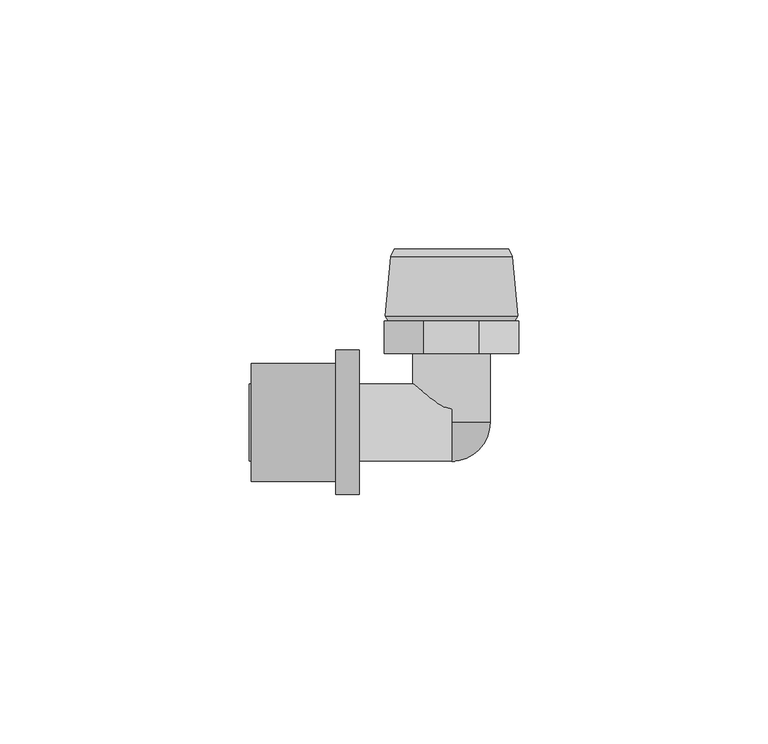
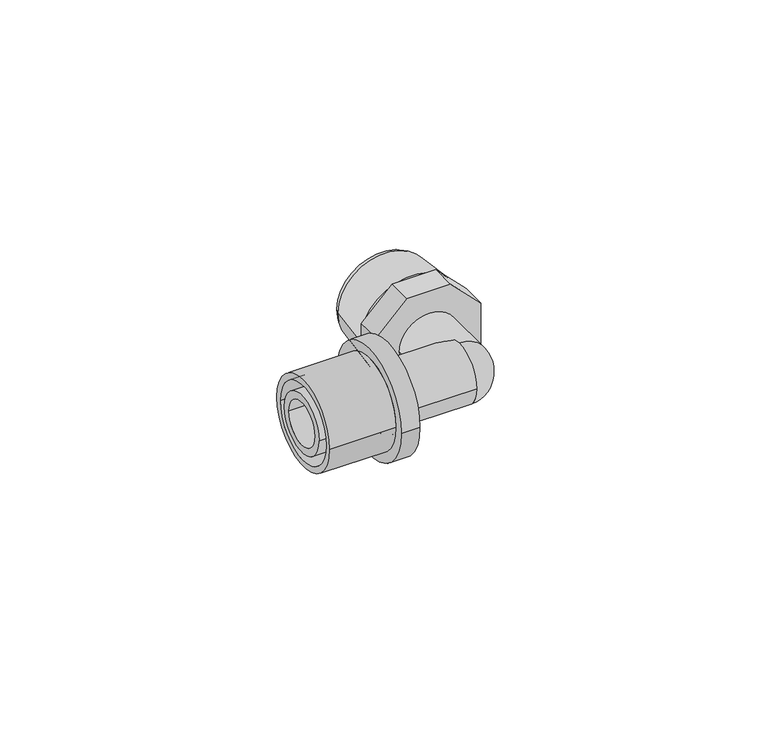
"""IFC4 building model written with IfcOpenShell, lengths in millimetres: pipe fitting geometry, FASTLOC_Elbow with male thread EX+ : FSL A internal AT."""

from ifc_helpers import new_model, si_unit, point, frame, origin, origin_2d, place, context, project, spatial, polyline, circle_curve, ellipse_curve, trimmed, segment, composite_curve, outline, extrude, source, transform, mapped, element, save
from ifc_brep_helpers import plane_surface, cylinder_surface, revolved_surface, advanced_brep


def pipe_fitting_21c97d0d(model_context):
    return source(origin(), model_context, "Body", "SolidModel", [
        advanced_brep(
        [(-23.2, -14.5, 0.0), (-23.2, 14.5, 0.0), (-18.5, 14.5, 0.0), (-18.5, -14.5, 0.0), (-40.2, -11.85, 0.0), (-40.2, 11.85, 0.0), (-23.2, 11.85, 0.0), (-23.2, -11.85, 0.0), (-18.5, -10.15, 0.0), (-18.5, 10.15, 0.0), (-40.2, 10.15, 0.0), (-40.2, -10.15, 0.0)],
        [
            (0, 1, circle_curve(frame((-23.2, 0.0, 0.0), z_axis=(1.0, 0.0, 0.0), x_axis=(0.0, 1.0, 0.0)), 14.5)),
            (1, 2),
            (2, 3, circle_curve(frame((-18.5, 0.0, 0.0), z_axis=(-1.0, 0.0, 0.0), x_axis=(0.0, 1.0, 0.0)), 14.5)),
            (3, 0),
            (4, 5, circle_curve(frame((-40.2, 0.0, 0.0), z_axis=(1.0, 0.0, 0.0), x_axis=(0.0, 1.0, 0.0)), 11.85)),
            (5, 6),
            (6, 7, circle_curve(frame((-23.2, 0.0, 0.0), z_axis=(-1.0, 0.0, 0.0), x_axis=(0.0, 1.0, 0.0)), 11.85)),
            (7, 4),
            (8, 9, circle_curve(frame((-18.5, 0.0, 0.0), z_axis=(1.0, 0.0, 0.0), x_axis=(0.0, 1.0, 0.0)), 10.15)),
            (9, 10),
            (10, 11, circle_curve(frame((-40.2, 0.0, 0.0), z_axis=(-1.0, 0.0, 0.0), x_axis=(0.0, 1.0, 0.0)), 10.15)),
            (11, 8),
            (1, 0, circle_curve(frame((-23.2, 0.0, 0.0), z_axis=(1.0, 0.0, 0.0), x_axis=(0.0, -1.0, 0.0)), 14.5)),
            (3, 2, circle_curve(frame((-18.5, 0.0, 0.0), z_axis=(-1.0, 0.0, 0.0), x_axis=(0.0, -1.0, 0.0)), 14.5)),
            (6, 7, circle_curve(frame((-23.2, 0.0, 0.0), z_axis=(1.0, 0.0, 0.0), x_axis=(0.0, -1.0, 0.0)), 11.85)),
            (5, 4, circle_curve(frame((-40.2, 0.0, 0.0), z_axis=(1.0, 0.0, 0.0), x_axis=(0.0, -1.0, 0.0)), 11.85)),
            (10, 11, circle_curve(frame((-40.2, 0.0, 0.0), z_axis=(1.0, 0.0, 0.0), x_axis=(0.0, -1.0, 0.0)), 10.15)),
            (9, 8, circle_curve(frame((-18.5, 0.0, 0.0), z_axis=(1.0, 0.0, 0.0), x_axis=(0.0, -1.0, 0.0)), 10.15)),
        ],
        [
            cylinder_surface(frame((-18.5, 0.0, 0.0), z_axis=(-1.0, 0.0, 0.0), x_axis=(0.0, 1.0, 0.0)), 14.5),
            cylinder_surface(frame((-18.5, 0.0, 0.0), z_axis=(-1.0, 0.0, 0.0), x_axis=(0.0, 1.0, 0.0)), 11.85),
            revolved_surface(polyline([(-40.2, 10.15, 0.0), (-18.5, 10.15, 0.0)]), (-18.5, 0.0, 0.0), (-1.0, 0.0, 0.0)),
            cylinder_surface(frame((-18.5, 0.0, 0.0), z_axis=(-1.0, 0.0, 0.0), x_axis=(0.0, -1.0, 0.0)), 14.5),
            plane_surface(frame((-23.2, 0.0, 0.0), z_axis=(-1.0, 0.0, 0.0), x_axis=(0.0, -1.0, 0.0))),
            cylinder_surface(frame((-18.5, 0.0, 0.0), z_axis=(-1.0, 0.0, 0.0), x_axis=(0.0, -1.0, 0.0)), 11.85),
            plane_surface(frame((-40.2, 0.0, 0.0), z_axis=(-1.0, 0.0, 0.0), x_axis=(0.0, -1.0, 0.0))),
            revolved_surface(polyline([(-40.2, -10.15, 0.0), (-18.5, -10.15, 0.0)]), (-18.5, 0.0, 0.0), (-1.0, 0.0, 0.0)),
            plane_surface(frame((-18.5, 0.0, 0.0), z_axis=(1.0, 0.0, 0.0), x_axis=(0.0, -1.0, 0.0))),
        ],
        [
            (0, [[1, 2, 3, 4]]),
            (1, [[5, 6, 7, 8]]),
            (2, [[9, 10, 11, 12]]),
            (3, [[13, -4, 14, -2]]),
            (4, [[-13, -1], [15, -7]]),
            (5, [[16, -8, -15, -6]]),
            (6, [[-16, -5], [17, -11]]),
            (7, [[18, -12, -17, -10]]),
            (8, [[-14, -3], [-18, -9]]),
        ],
    ),
        advanced_brep(
        [(12.15, 33.3000007, 0.0), (-12.15, 33.3000007, 0.0), (-11.45, 34.8, 0.0), (11.45, 34.8, 0.0), (13.3, 21.3531902, 0.0), (-13.3, 21.3531902, 0.0), (12.7, 20.3, 0.0), (-12.7, 20.3, 0.0), (9.5, 21.7157803, 0.0), (-9.5, 21.7157803, 0.0), (-8.3967197, 20.3, 0.0), (8.3967197, 20.3, 0.0), (9.5, 34.8, 0.0), (-9.5, 34.8, 0.0)],
        [
            (0, 1, circle_curve(frame((0.0, 33.3000007, 0.0), z_axis=(0.0, 1.0, 0.0), x_axis=(-1.0, 0.0, 0.0)), 12.15)),
            (1, 2),
            (2, 3, circle_curve(frame((0.0, 34.8, 0.0), z_axis=(0.0, -1.0, 0.0), x_axis=(-1.0, 0.0, 0.0)), 11.45)),
            (3, 0),
            (4, 5, circle_curve(frame((0.0, 21.3531902, 0.0), z_axis=(0.0, 1.0, 0.0), x_axis=(-1.0, 0.0, 0.0)), 13.3)),
            (5, 1),
            (0, 4),
            (6, 7, circle_curve(frame((0.0, 20.3, 0.0), z_axis=(0.0, 1.0, 0.0), x_axis=(-1.0, 0.0, 0.0)), 12.7)),
            (7, 5),
            (4, 6),
            (8, 9, circle_curve(frame((0.0, 21.7157803, 0.0), z_axis=(0.0, 1.0, 0.0), x_axis=(-1.0, 0.0, 0.0)), 9.5)),
            (9, 10),
            (10, 11, circle_curve(frame((0.0, 20.3, 0.0), z_axis=(0.0, -1.0, 0.0), x_axis=(-1.0, 0.0, 0.0)), 8.3967197)),
            (11, 8),
            (12, 13, circle_curve(frame((0.0, 34.8, 0.0), z_axis=(0.0, 1.0, 0.0), x_axis=(-1.0, 0.0, 0.0)), 9.5)),
            (13, 9),
            (8, 12),
            (2, 3, circle_curve(frame((0.0, 34.8, 0.0), z_axis=(0.0, 1.0, 0.0), x_axis=(1.0, 0.0, 0.0)), 11.45)),
            (12, 13, circle_curve(frame((0.0, 34.8, 0.0), z_axis=(0.0, -1.0, 0.0), x_axis=(1.0, 0.0, 0.0)), 9.5)),
            (1, 0, circle_curve(frame((0.0, 33.3000007, 0.0), z_axis=(0.0, 1.0, 0.0), x_axis=(1.0, 0.0, 0.0)), 12.15)),
            (5, 4, circle_curve(frame((0.0, 21.3531902, 0.0), z_axis=(0.0, 1.0, 0.0), x_axis=(1.0, 0.0, 0.0)), 13.3)),
            (7, 6, circle_curve(frame((0.0, 20.3, 0.0), z_axis=(0.0, 1.0, 0.0), x_axis=(1.0, 0.0, 0.0)), 12.7)),
            (10, 11, circle_curve(frame((0.0, 20.3, 0.0), z_axis=(0.0, 1.0, 0.0), x_axis=(1.0, 0.0, 0.0)), 8.3967197)),
            (9, 8, circle_curve(frame((0.0, 21.7157803, 0.0), z_axis=(0.0, 1.0, 0.0), x_axis=(1.0, 0.0, 0.0)), 9.5)),
        ],
        [
            revolved_surface(polyline([(-11.45, 34.8, 0.0), (-12.15, 33.3000007, 0.0)]), (0.0, 13.8, 0.0), (0.0, -1.0, 0.0)),
            revolved_surface(polyline([(-12.15, 33.3000007, 0.0), (-13.3, 21.3531902, 0.0)]), (0.0, 13.8, 0.0), (0.0, -1.0, 0.0)),
            revolved_surface(polyline([(-13.3, 21.3531902, 0.0), (-12.7, 20.3, 0.0)]), (0.0, 13.8, 0.0), (0.0, -1.0, 0.0)),
            revolved_surface(polyline([(-8.3967197, 20.3, 0.0), (-9.5, 21.7157803, 0.0)]), (0.0, 13.8, 0.0), (0.0, -1.0, 0.0)),
            revolved_surface(polyline([(-9.5, 21.7157803, 0.0), (-9.5, 34.8, 0.0)]), (0.0, 13.8, 0.0), (0.0, -1.0, 0.0)),
            plane_surface(frame((0.0, 34.8, 0.0), z_axis=(0.0, 1.0, 0.0), x_axis=(1.0, 0.0, 0.0))),
            revolved_surface(polyline([(11.45, 34.8, 0.0), (12.15, 33.3000007, 0.0)]), (0.0, 13.8, 0.0), (0.0, -1.0, 0.0)),
            revolved_surface(polyline([(12.15, 33.3000007, 0.0), (13.3, 21.3531902, 0.0)]), (0.0, 13.8, 0.0), (0.0, -1.0, 0.0)),
            revolved_surface(polyline([(13.3, 21.3531902, 0.0), (12.7, 20.3, 0.0)]), (0.0, 13.8, 0.0), (0.0, -1.0, 0.0)),
            plane_surface(frame((0.0, 20.3, 0.0), z_axis=(0.0, -1.0, 0.0), x_axis=(1.0, 0.0, 0.0))),
            revolved_surface(polyline([(8.3967197, 20.3, 0.0), (9.5, 21.7157803, 0.0)]), (0.0, 13.8, 0.0), (0.0, -1.0, 0.0)),
            revolved_surface(polyline([(9.5, 21.7157803, 0.0), (9.5, 34.8, 0.0)]), (0.0, 13.8, 0.0), (0.0, -1.0, 0.0)),
        ],
        [
            (0, [[1, 2, 3, 4]]),
            (1, [[5, 6, -1, 7]]),
            (2, [[8, 9, -5, 10]]),
            (3, [[11, 12, 13, 14]]),
            (4, [[15, 16, -11, 17]]),
            (5, [[18, -3], [19, -15]]),
            (6, [[20, -4, -18, -2]]),
            (7, [[21, -7, -20, -6]]),
            (8, [[22, -10, -21, -9]]),
            (9, [[-22, -8], [23, -13]]),
            (10, [[24, -14, -23, -12]]),
            (11, [[-19, -17, -24, -16]]),
        ],
    ),
        advanced_brep(
        [(-23.2, 7.75, 0.0), (-23.2, -7.75, 0.0), (-40.6, -7.75, 0.0), (-40.6, 7.75, 0.0), (-20.5, 8.8, 0.0), (-20.5, -8.8, 0.0), (-23.2, -8.8, 0.0), (-23.2, 8.8, 0.0), (0.0, 7.75, 0.0), (0.0, -7.75, 0.0), (-20.5, -7.75, 0.0), (-20.5, 7.75, 0.0), (-40.6, 5.75, 0.0), (-40.6, -5.75, 0.0), (0.0, -5.75, 0.0), (0.0, 5.75, 0.0)],
        [
            (0, 1, circle_curve(frame((-23.2, 0.0, 0.0), z_axis=(-1.0, 0.0, 0.0), x_axis=(0.0, -1.0, 0.0)), 7.75)),
            (1, 2),
            (2, 3, circle_curve(frame((-40.6, 0.0, 0.0), z_axis=(1.0, 0.0, 0.0), x_axis=(0.0, -1.0, 0.0)), 7.75)),
            (3, 0),
            (4, 5, circle_curve(frame((-20.5, 0.0, 0.0), z_axis=(-1.0, 0.0, 0.0), x_axis=(0.0, -1.0, 0.0)), 8.8)),
            (5, 6),
            (6, 7, circle_curve(frame((-23.2, 0.0, 0.0), z_axis=(1.0, 0.0, 0.0), x_axis=(0.0, -1.0, 0.0)), 8.8)),
            (7, 4),
            (8, 9, circle_curve(frame((0.0, 0.0, 0.0), z_axis=(-1.0, 0.0, 0.0), x_axis=(0.0, -1.0, 0.0)), 7.75)),
            (9, 10),
            (10, 11, circle_curve(frame((-20.5, 0.0, 0.0), z_axis=(1.0, 0.0, 0.0), x_axis=(0.0, -1.0, 0.0)), 7.75)),
            (11, 8),
            (12, 13, circle_curve(frame((-40.6, 0.0, 0.0), z_axis=(-1.0, 0.0, 0.0), x_axis=(0.0, -1.0, 0.0)), 5.75)),
            (13, 14),
            (14, 15, circle_curve(frame((0.0, 0.0, 0.0), z_axis=(1.0, 0.0, 0.0), x_axis=(0.0, -1.0, 0.0)), 5.75)),
            (15, 12),
            (2, 3, circle_curve(frame((-40.6, 0.0, 0.0), z_axis=(-1.0, 0.0, 0.0), x_axis=(0.0, 1.0, 0.0)), 7.75)),
            (12, 13, circle_curve(frame((-40.6, 0.0, 0.0), z_axis=(1.0, 0.0, 0.0), x_axis=(0.0, 1.0, 0.0)), 5.75)),
            (1, 0, circle_curve(frame((-23.2, 0.0, 0.0), z_axis=(-1.0, 0.0, 0.0), x_axis=(0.0, 1.0, 0.0)), 7.75)),
            (6, 7, circle_curve(frame((-23.2, 0.0, 0.0), z_axis=(-1.0, 0.0, 0.0), x_axis=(0.0, 1.0, 0.0)), 8.8)),
            (5, 4, circle_curve(frame((-20.5, 0.0, 0.0), z_axis=(-1.0, 0.0, 0.0), x_axis=(0.0, 1.0, 0.0)), 8.8)),
            (10, 11, circle_curve(frame((-20.5, 0.0, 0.0), z_axis=(-1.0, 0.0, 0.0), x_axis=(0.0, 1.0, 0.0)), 7.75)),
            (9, 8, circle_curve(frame((0.0, 0.0, 0.0), z_axis=(-1.0, 0.0, 0.0), x_axis=(0.0, 1.0, 0.0)), 7.75)),
            (14, 15, circle_curve(frame((0.0, 0.0, 0.0), z_axis=(-1.0, 0.0, 0.0), x_axis=(0.0, 1.0, 0.0)), 5.75)),
        ],
        [
            cylinder_surface(frame((0.0, 0.0, 0.0), z_axis=(1.0, 0.0, 0.0), x_axis=(0.0, -1.0, 0.0)), 7.75),
            cylinder_surface(frame((0.0, 0.0, 0.0), z_axis=(1.0, 0.0, 0.0), x_axis=(0.0, -1.0, 0.0)), 8.8),
            revolved_surface(polyline([(0.0, -5.75, 0.0), (-40.6, -5.75, 0.0)]), (0.0, 0.0, 0.0), (1.0, 0.0, 0.0)),
            plane_surface(frame((-40.6, 0.0, 0.0), z_axis=(-1.0, 0.0, 0.0), x_axis=(0.0, 1.0, 0.0))),
            cylinder_surface(frame((0.0, 0.0, 0.0), z_axis=(1.0, 0.0, 0.0), x_axis=(0.0, 1.0, 0.0)), 7.75),
            plane_surface(frame((-23.2, 0.0, 0.0), z_axis=(-1.0, 0.0, 0.0), x_axis=(0.0, 1.0, 0.0))),
            cylinder_surface(frame((0.0, 0.0, 0.0), z_axis=(1.0, 0.0, 0.0), x_axis=(0.0, 1.0, 0.0)), 8.8),
            plane_surface(frame((-20.5, 0.0, 0.0), z_axis=(1.0, 0.0, 0.0), x_axis=(0.0, 1.0, 0.0))),
            plane_surface(frame((0.0, 0.0, 0.0), z_axis=(1.0, 0.0, 0.0), x_axis=(0.0, 1.0, 0.0))),
            revolved_surface(polyline([(0.0, 5.75, 0.0), (-40.6, 5.75, 0.0)]), (0.0, 0.0, 0.0), (1.0, 0.0, 0.0)),
        ],
        [
            (0, [[1, 2, 3, 4]]),
            (1, [[5, 6, 7, 8]]),
            (0, [[9, 10, 11, 12]]),
            (2, [[13, 14, 15, 16]]),
            (3, [[17, -3], [18, -13]]),
            (4, [[19, -4, -17, -2]]),
            (5, [[20, -7], [-19, -1]]),
            (6, [[21, -8, -20, -6]]),
            (7, [[-21, -5], [22, -11]]),
            (4, [[23, -12, -22, -10]]),
            (8, [[-23, -9], [24, -15]]),
            (9, [[-18, -16, -24, -14]]),
        ],
    ),
        advanced_brep(
        [(0.0, -7.8, 0.0), (0.0, 0.0, 7.8), (0.0, 0.0, 5.75), (0.0, -5.75, 0.0), (0.0, 0.0, -5.75), (0.0, 0.0, -7.8)],
        [
            (0, 1, circle_curve(frame((0.0, 0.0, 0.0), z_axis=(-1.0, 0.0, 0.0), x_axis=(0.0, 0.0, 1.0)), 7.8)),
            (1, 2),
            (2, 3, circle_curve(frame((0.0, 0.0, 0.0), z_axis=(1.0, 0.0, 0.0), x_axis=(0.0, 0.0, 1.0)), 5.75)),
            (3, 0),
            (3, 4, circle_curve(frame((0.0, 0.0, 0.0), z_axis=(1.0, 0.0, 0.0), x_axis=(0.0, 0.0, -1.0)), 5.75)),
            (4, 5),
            (5, 0, circle_curve(frame((0.0, 0.0, 0.0), z_axis=(-1.0, 0.0, 0.0), x_axis=(0.0, 0.0, -1.0)), 7.8)),
            (5, 1, circle_curve(frame((0.0, 0.0, 0.0), z_axis=(0.0, -1.0, 0.0), x_axis=(0.0, 0.0, 1.0)), 7.8)),
            (4, 2, circle_curve(frame((0.0, 0.0, 0.0), z_axis=(0.0, -1.0, 0.0), x_axis=(0.0, 0.0, 1.0)), 5.75)),
        ],
        [
            plane_surface(frame((0.0, 0.0, 0.0), z_axis=(-1.0, 0.0, 0.0), x_axis=(0.0, 0.0, 1.0))),
            plane_surface(frame((0.0, 0.0, 0.0), z_axis=(-1.0, 0.0, 0.0), x_axis=(0.0, 0.0, -1.0))),
            revolved_surface(trimmed(ellipse_curve(frame((0.0, 0.0, 0.0), z_axis=(-1.0, 0.0, 0.0), x_axis=(0.0, 0.0, 1.0)), 7.8, 7.8), [point((0.0, -7.8, 0.0))], [point((0.0, 0.0, 7.8))], True, "CARTESIAN"), (0.0, 0.0, 0.0), (0.0, 1.0, 0.0)),
            plane_surface(frame((0.0, 0.0, 0.0), z_axis=(0.0, 1.0, 0.0), x_axis=(0.0, 0.0, 1.0))),
            revolved_surface(trimmed(ellipse_curve(frame((0.0, 0.0, 0.0), z_axis=(1.0, 0.0, 0.0), x_axis=(0.0, 0.0, 1.0)), 5.75, 5.75), [point((0.0, 0.0, 5.75))], [point((0.0, -5.75, 0.0))], True, "CARTESIAN"), (0.0, 0.0, 0.0), (0.0, 1.0, 0.0)),
        ],
        [
            (0, [[1, 2, 3, 4]]),
            (1, [[5, 6, 7, -4]]),
            (2, [[8, -1, -7]]),
            (3, [[9, -2, -8, -6]]),
            (4, [[-3, -9, -5]]),
        ],
    ),
        extrude(outline(polyline([(-13.5, 5.5918831), (-5.5918831, 13.5), (5.5918831, 13.5), (13.5, 5.5918831), (13.5, -5.5918831), (5.5918831, -13.5), (-5.5918831, -13.5), (-13.5, -5.5918831), (-13.5, 5.5918831)])), frame((0.0, 13.8, 0.0), z_axis=(0.0, 1.0, 0.0), x_axis=(0.0, 0.0, 1.0)), (0.0, 0.0, 1.0), 6.5),
        extrude(outline(composite_curve([segment(trimmed(circle_curve(origin_2d(), 7.75), [point((0.0, -7.75))], [point((0.0, 7.75))], False, "CARTESIAN"), True, "CONTINUOUS"), segment(trimmed(circle_curve(origin_2d(), 7.75), [point((0.0, 7.75))], [point((0.0, -7.75))], False, "CARTESIAN"), True, "CONTINUOUS")], self_intersect=False), holes=[composite_curve([segment(trimmed(circle_curve(origin_2d(), 5.75), [point((0.0, -5.75))], [point((0.0, 5.75))], True, "CARTESIAN"), True, "CONTINUOUS"), segment(trimmed(circle_curve(origin_2d(), 5.75), [point((0.0, 5.75))], [point((0.0, -5.75))], True, "CARTESIAN"), True, "CONTINUOUS")], self_intersect=False)]), frame((0.0, 0.0, 0.0), z_axis=(0.0, 1.0, 0.0), x_axis=(0.0, 0.0, 1.0)), (0.0, 0.0, 1.0), 13.8),
    ])


if __name__ == "__main__":
    model = new_model("IFC4")
    model_context = context("Model", 3, world=origin())
    ifc_project = project(units=[si_unit("LENGTHUNIT", "METRE", prefix="MILLI")], contexts=[model_context])
    site = spatial("IfcSite", under=ifc_project)
    building = spatial("IfcBuilding", under=site)
    placement = place(None, origin())
    pipe_fitting_shape = pipe_fitting_21c97d0d(model_context)
    element("IfcPipeFitting", 1, ObjectType="FASTLOC_Elbow with male thread EX+ : FSL A internal AT", at=placement, inside=building, context=model_context, shape_type="MappedRepresentation", body=[
        mapped(pipe_fitting_shape, transform((0.0, 0.0, 0.0), x_axis=(1.0, 0.0, 0.0), y_axis=(0.0, 1.0, 0.0), z_axis=(0.0, 0.0, 1.0))),
    ])
    save(model, "model.ifc")
